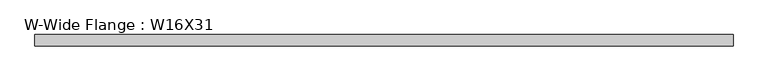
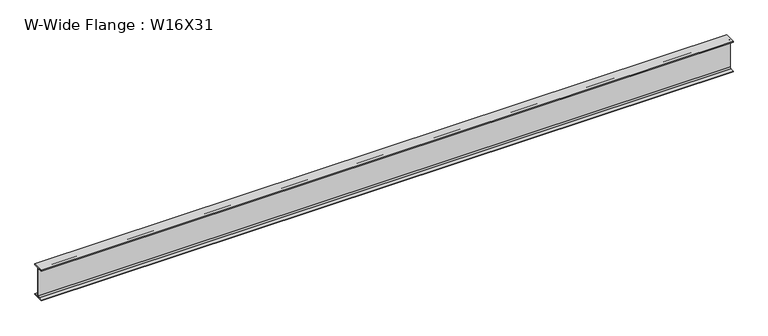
"""IFC4 building model written with IfcOpenShell, lengths in millimetres: beam geometry, W-Wide Flange : W16X31."""

from ifc_helpers import new_model, si_unit, point, frame, frame_2d, origin, place, context, project, spatial, polyline, circle_curve, trimmed, segment, composite_curve, outline, extrude, source, transform, mapped, element, save


def w_wide_flange_w16x31_38feb42c(model_context):
    return source(origin(), model_context, "Body", "SweptSolid", [
        extrude(outline(composite_curve([segment(polyline([(70.231, -190.754), (70.231, -201.93), (-70.231, -201.93), (-70.231, -190.754), (-20.8915, -190.754)]), True, "CONTINUOUS"), segment(trimmed(circle_curve(frame_2d((-20.8915, -173.355)), 17.399), [point((-20.8915, -190.754))], [point((-3.4925, -173.355))], True, "CARTESIAN"), True, "CONTINUOUS"), segment(polyline([(-3.4925, -173.355), (-3.4925, 173.355)]), True, "CONTINUOUS"), segment(trimmed(circle_curve(frame_2d((-20.8915, 173.355)), 17.399), [point((-3.4925, 173.355))], [point((-20.8915, 190.754))], True, "CARTESIAN"), True, "CONTINUOUS"), segment(polyline([(-20.8915, 190.754), (-70.231, 190.754), (-70.231, 201.93), (70.231, 201.93), (70.231, 190.754), (20.8915, 190.754)]), True, "CONTINUOUS"), segment(trimmed(circle_curve(frame_2d((20.8915, 173.355)), 17.399), [point((20.8915, 190.754))], [point((3.4925, 173.355))], True, "CARTESIAN"), True, "CONTINUOUS"), segment(polyline([(3.4925, 173.355), (3.4925, -173.355)]), True, "CONTINUOUS"), segment(trimmed(circle_curve(frame_2d((20.8915, -173.355)), 17.399), [point((3.4925, -173.355))], [point((20.8915, -190.754))], True, "CARTESIAN"), True, "CONTINUOUS"), segment(polyline([(20.8915, -190.754), (70.231, -190.754)]), True, "CONTINUOUS")], self_intersect=False)), frame((-4330.0820758, 0.0, 0.0), z_axis=(1.0, 0.0, 0.0), x_axis=(0.0, 1.0, 0.0)), (0.0, 0.0, 1.0), 8660.1641516),
    ])


if __name__ == "__main__":
    model = new_model("IFC4")
    model_context = context("Model", 3, world=origin())
    ifc_project = project(units=[si_unit("LENGTHUNIT", "METRE", prefix="MILLI")], contexts=[model_context])
    site = spatial("IfcSite", under=ifc_project)
    building = spatial("IfcBuilding", under=site)
    placement = place(None, origin())
    w_wide_flange_w16x31_shape = w_wide_flange_w16x31_38feb42c(model_context)
    element("IfcBeam", 1, ObjectType="W-Wide Flange : W16X31", at=placement, inside=building, context=model_context, shape_type="MappedRepresentation", body=[
        mapped(w_wide_flange_w16x31_shape, transform((0.0, 0.0, 0.0), x_axis=(1.0, 0.0, 0.0), y_axis=(0.0, 1.0, 0.0), z_axis=(0.0, 0.0, 1.0))),
    ])
    save(model, "model.ifc")
